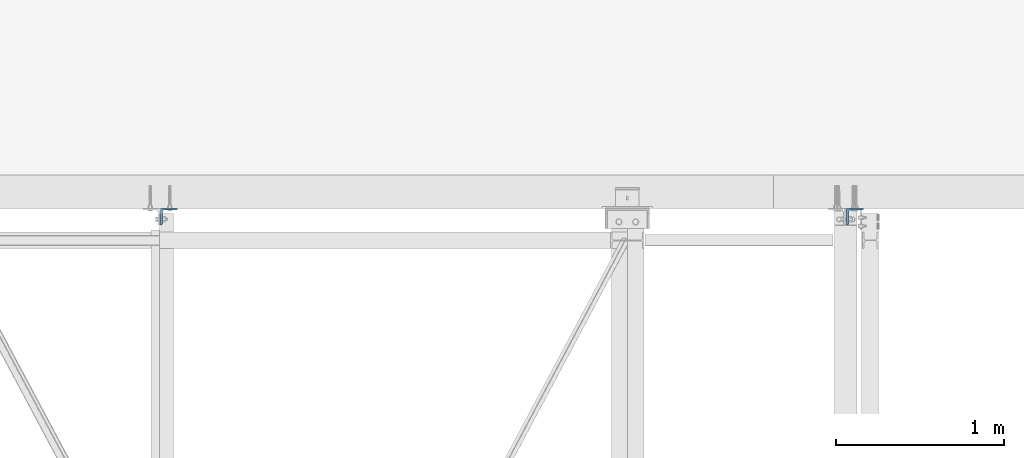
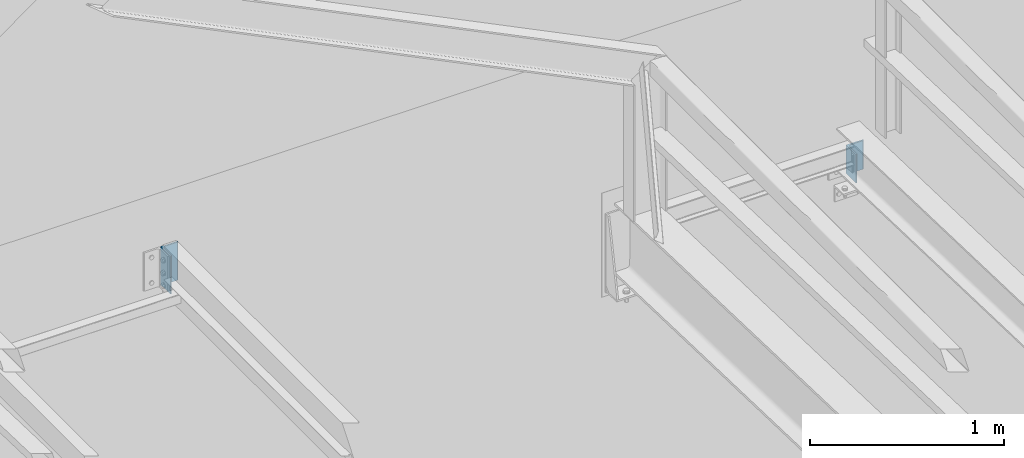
# One storey, part 48 of 123: 2 beams, 2 elements without a shape of their own.
"""IFC2X3 building model written with IfcOpenShell, lengths in millimetres."""

from ifc_helpers import new_model, si_unit, frame, origin_with_axes, origin_2d_with_axis, place, context, subcontext, project, spatial, l_section, extrude, material, type_object, element, aggregate, save


model = new_model("IFC2X3")

# Units and contexts
model_context = context("Model", 3, precision=1e-05, world=origin_with_axes())
body_context = subcontext(model_context, "Body", "Model", "MODEL_VIEW")
ifc_project = project(units=[si_unit("LENGTHUNIT", "METRE", prefix="MILLI"), si_unit("AREAUNIT", "SQUARE_METRE"), si_unit("VOLUMEUNIT", "CUBIC_METRE"), si_unit("MASSUNIT", "GRAM", prefix="KILO"), si_unit("TIMEUNIT", "SECOND"), si_unit("PLANEANGLEUNIT", "RADIAN"), si_unit("SOLIDANGLEUNIT", "STERADIAN"), si_unit("THERMODYNAMICTEMPERATUREUNIT", "DEGREE_CELSIUS"), si_unit("LUMINOUSINTENSITYUNIT", "LUMEN")], contexts=[model_context])

# Site, building, storey
site_placement = place(None, origin_with_axes())
site = spatial("IfcSite", under=ifc_project, at=site_placement, Name="Undefined", CompositionType="ELEMENT")
building_placement = place(site_placement, origin_with_axes())
building = spatial("IfcBuilding", under=site, at=building_placement, Name="Undefined", CompositionType="ELEMENT")
storey_placement = place(building_placement, origin_with_axes())
storey = spatial("IfcBuildingStorey", under=building, at=storey_placement, Name="Undefined", CompositionType="ELEMENT", Elevation=0.0)

# Assembly, beam
assembly_1_placement = place(storey_placement, origin_with_axes())
assembly_1 = element("IfcElementAssembly", 1, at=assembly_1_placement, inside=storey, Name="Steel Assembly", AssemblyPlace="NOTDEFINED", PredefinedType="RIGID_FRAME")
ifc_material = material(Name="STEEL/S235-E24")
beam_type = type_object("IfcBeamType", Name="L100*10", PredefinedType="NOTDEFINED")
beam_1_placement = place(assembly_1_placement, frame((35602.4917140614, 15339.9999999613, 8210.00437164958), z_axis=(1.0, 0.0, 0.0), x_axis=(0.0, 0.0, -1.0)))
beam_1 = element("IfcBeam", 2, at=beam_1_placement, type_object=beam_type, material=ifc_material, Name="ATTACHE", ObjectType="L100*10", context=body_context, shape_type="SweptSolid", body=[
    extrude(l_section(Depth=100.0, Width=100.0, Thickness=10.0, FilletRadius=12.0, EdgeRadius=6.0, at=origin_2d_with_axis()), frame((240.0, 0.0, 0.0), z_axis=(-1.0, 0.0, 0.0), x_axis=(0.0, -1.0, 0.0)), (0.0, 0.0, 1.0), 240.0),
])
aggregate(assembly_1, [beam_1])

assembly_2_placement = place(storey_placement, origin_with_axes())
assembly_2 = element("IfcElementAssembly", 3, at=assembly_2_placement, inside=storey, Name="Steel Assembly", AssemblyPlace="NOTDEFINED", PredefinedType="RIGID_FRAME")
beam_2_placement = place(assembly_2_placement, frame((39684.9999999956, 15339.9999930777, 7419.93135685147), z_axis=(1.0, 0.0, 0.0), x_axis=(0.0, 0.0, -1.0)))
beam_2 = element("IfcBeam", 4, at=beam_2_placement, type_object=beam_type, material=ifc_material, Name="ATTACHE", ObjectType="L100*10", context=body_context, shape_type="SweptSolid", body=[
    extrude(l_section(Depth=100.0, Width=100.0, Thickness=10.0, FilletRadius=12.0, EdgeRadius=6.0, at=origin_2d_with_axis()), frame((180.0, 0.0, 0.0), z_axis=(-1.0, 0.0, 0.0), x_axis=(0.0, -1.0, 0.0)), (0.0, 0.0, 1.0), 180.0),
])
aggregate(assembly_2, [beam_2])

save(model, "model.ifc")
